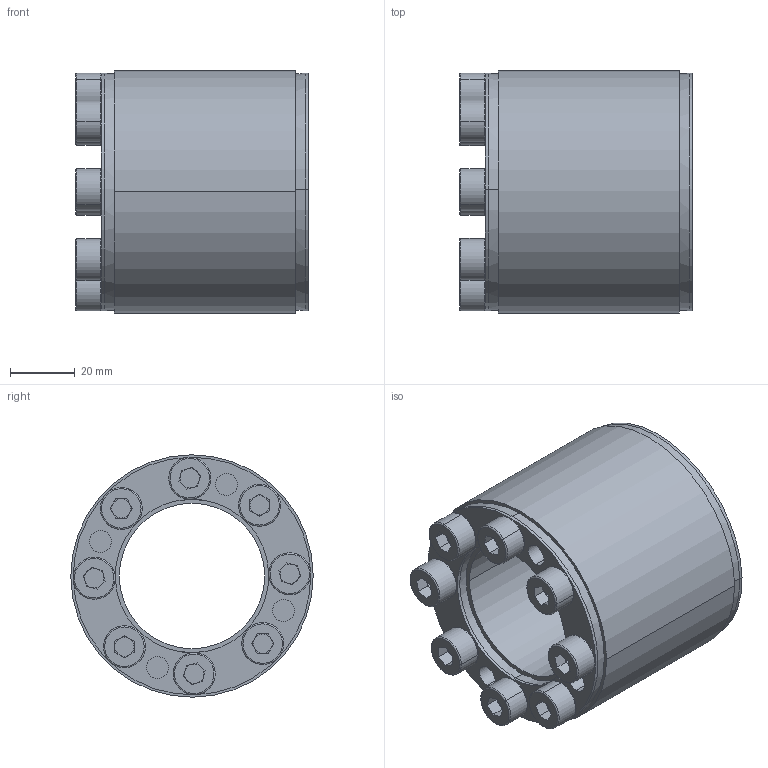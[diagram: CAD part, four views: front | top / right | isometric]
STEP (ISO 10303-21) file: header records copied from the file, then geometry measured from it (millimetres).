
FILE_DESCRIPTION (( 'STEP AP203' ), '1' );
FILE_NAME ('SAPL-D4-45-75.STEP', '2017-11-09T23:49:25', ( 'MYCOM' ), ( '' ), 'SwSTEP 2.0', 'SolidWorks 2015', '' );
FILE_SCHEMA (( 'CONFIG_CONTROL_DESIGN' ));
Length unit declared in the file: millimetre
Products named in the file (1): SAPL-D4-45-75
Bounding box: 72 x 75 x 75 mm (x, y, z)
Surface area: 50684.9 mm2 (no closed solid volume)
Topology: 0 solids, 20 shells, 222 faces, 552 edges, 346 vertices
Faces by surface type: plane 112, cylinder 68, torus 32, cone 10
Entity records: 6664 total; most frequent: DIRECTION 1280, CARTESIAN_POINT 1121, ORIENTED_EDGE 982, EDGE_CURVE 552, AXIS2_PLACEMENT_3D 505, VERTEX_POINT 346, CIRCLE 282, LINE 270
